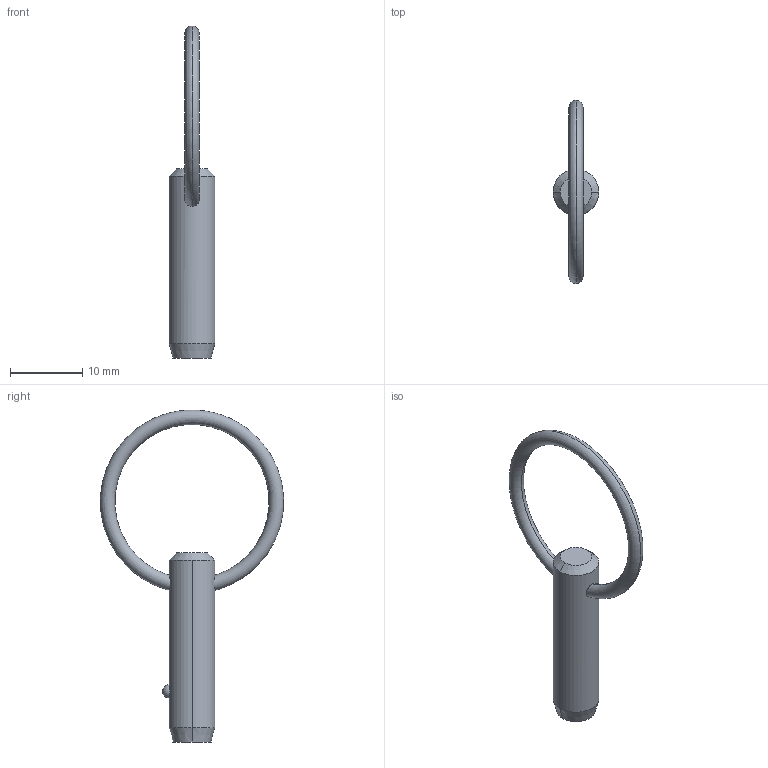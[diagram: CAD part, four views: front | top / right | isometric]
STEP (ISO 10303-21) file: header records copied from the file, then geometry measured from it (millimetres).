
FILE_DESCRIPTION (( 'STEP AP203' ), '1' );
FILE_NAME ('P1250.025-050.step', '2019-07-29T19:38:33', ( '' ), ( '' ), 'SwSTEP 2.0', 'SolidWorks 2017', '' );
FILE_SCHEMA (( 'CONFIG_CONTROL_DESIGN' ));
Length unit declared in the file: millimetre
Products named in the file (1): P1250.025-050
Bounding box: 6.35 x 25.38 x 46.02 mm (x, y, z)
Volume: 1023.4 mm3; surface area: 980 mm2
Topology: 1 solids, 1 shells, 12 faces, 28 edges, 17 vertices
Faces by surface type: cone 4, torus 2, sphere 2, cylinder 2, plane 2
Entity records: 481 total; most frequent: CARTESIAN_POINT 148, DIRECTION 56, ORIENTED_EDGE 48, AXIS2_PLACEMENT_3D 25, EDGE_CURVE 24, VERTEX_POINT 15, EDGE_LOOP 15, FACE_OUTER_BOUND 12
